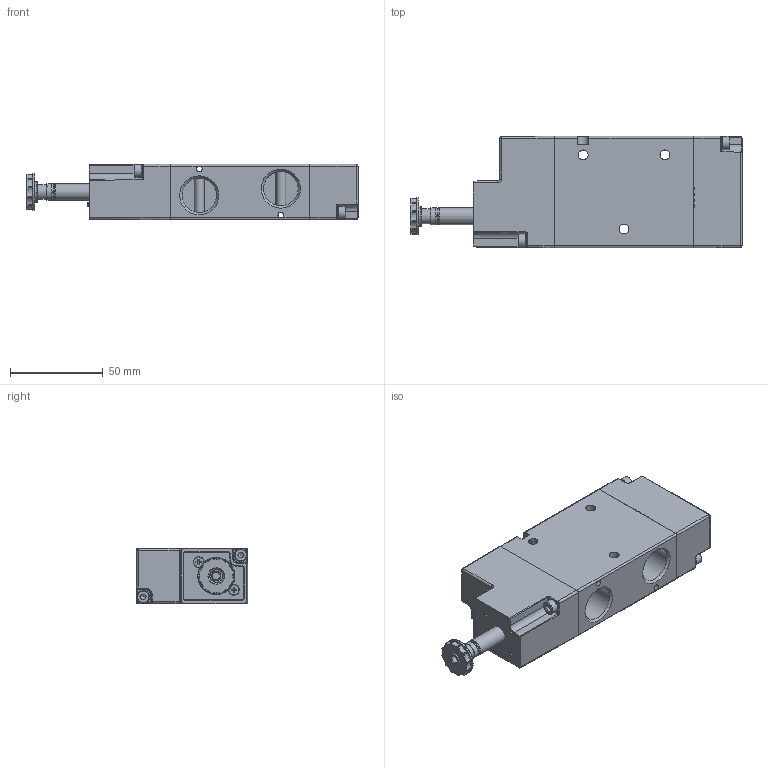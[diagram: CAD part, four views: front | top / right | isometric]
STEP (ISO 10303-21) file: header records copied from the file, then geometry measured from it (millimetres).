
FILE_DESCRIPTION (( 'STEP AP214' ), '1' );
FILE_NAME ('01VS03NC05A.STEP', '2013-09-02T16:29:58', ( 'ST01' ), ( '' ), 'SwSTEP 2.0', 'SolidWorks 2012', '' );
FILE_SCHEMA (( 'AUTOMOTIVE_DESIGN' ));
Length unit declared in the file: millimetre
Products named in the file (1): 01VS03NC05A
Bounding box: 179 x 60 x 30 mm (x, y, z)
Surface area: 39835.1 mm2 (no closed solid volume)
Topology: 0 solids, 25 shells, 502 faces, 1554 edges, 1009 vertices
Faces by surface type: plane 158, cylinder 129, bspline 84, torus 77, cone 43, sphere 11
Full cylindrical faces by diameter (mm): 2.2 x1, 3.1 x4, 4.2 x1, 5.3 x3, 5.5 x2, 6.9 x1, 7 x4, 8 x1, 9 x2, 9.4 x1, 18.631 x3
Entity records: 24892 total; most frequent: CARTESIAN_POINT 7120, DIRECTION 2432, ORIENTED_EDGE 2321, EDGE_CURVE 1466, VERTEX_POINT 993, AXIS2_PLACEMENT_3D 947, EDGE_LOOP 610, FACE_OUTER_BOUND 540
